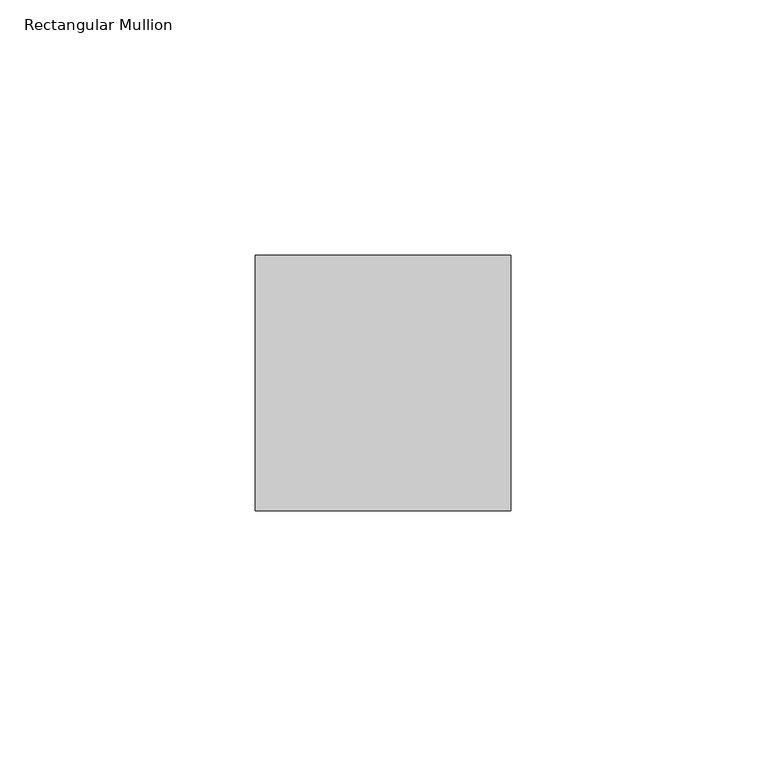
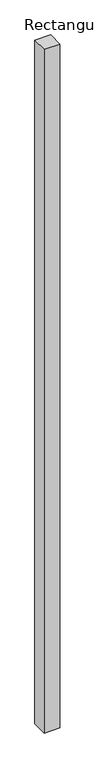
"""IFC4 building model written with IfcOpenShell, lengths in millimetres: member geometry, Rectangular Mullion : Mullion_Curtain Wall_Generic Showcase_50x50mm."""

from ifc_helpers import new_model, si_unit, frame, origin, place, context, project, spatial, polyline, outline, extrude, source, transform, mapped, element, save


def rectangular_mullion_7ea7b6c0(model_context):
    return source(origin(), model_context, "Body", "SweptSolid", [
        extrude(outline(polyline([(25.0, 50.0), (25.0, 0.0), (-25.0, 0.0), (-25.0, 50.0), (25.0, 50.0)])), frame((0.0, 0.0, -2275.0), z_axis=(0.0, 0.0, 1.0), x_axis=(1.0, 0.0, 0.0)), (0.0, 0.0, 1.0), 2275.0),
    ])


if __name__ == "__main__":
    model = new_model("IFC4")
    model_context = context("Model", 3, world=origin())
    ifc_project = project(units=[si_unit("LENGTHUNIT", "METRE", prefix="MILLI")], contexts=[model_context])
    site = spatial("IfcSite", under=ifc_project)
    building = spatial("IfcBuilding", under=site)
    placement = place(None, origin())
    rectangular_mullion_shape = rectangular_mullion_7ea7b6c0(model_context)
    element("IfcMember", 1, ObjectType="Rectangular Mullion : Mullion_Curtain Wall_Generic Showcase_50x50mm", at=placement, inside=building, context=model_context, shape_type="MappedRepresentation", body=[
        mapped(rectangular_mullion_shape, transform((0.0, 0.0, 0.0), x_axis=(1.0, 0.0, 0.0), y_axis=(0.0, 1.0, 0.0), z_axis=(0.0, 0.0, 1.0))),
    ])
    save(model, "model.ifc")
